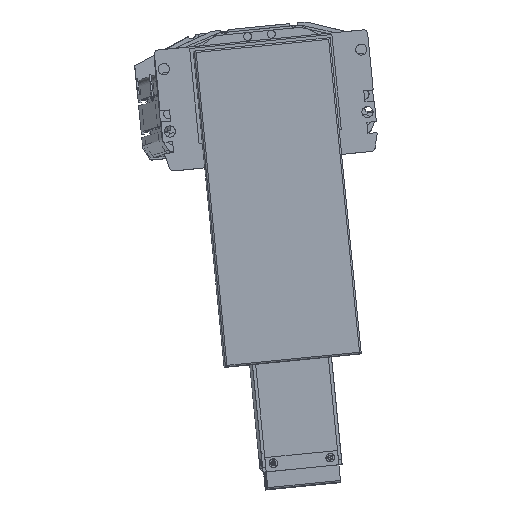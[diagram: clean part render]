
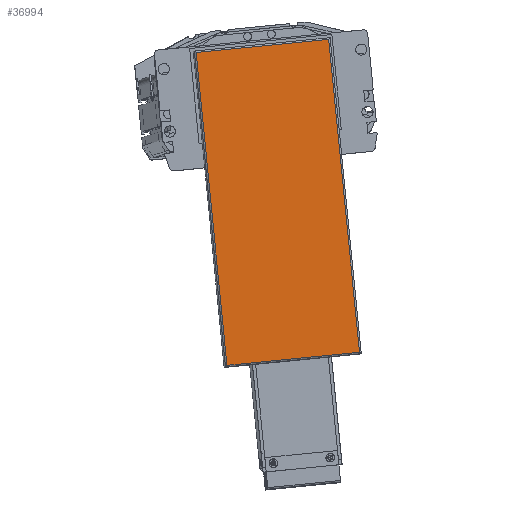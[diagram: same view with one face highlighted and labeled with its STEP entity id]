
A CAD part, top view. The second image highlights one B-rep face of the part: STEP entity #36994.
In plain terms, the highlighted planar face has unit normal (0.017, 0.003, 1) as drawn and (0, 0, 1) by its records, which use the part's own axes.
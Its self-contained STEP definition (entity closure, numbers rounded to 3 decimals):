
#36651 = EDGE_CURVE ( 'NONE', #36836, #36724, #46009, .T. ) ;
#36658 = EDGE_CURVE ( 'NONE', #36724, #36799, #45969, .T. ) ;
#36714 = EDGE_CURVE ( 'NONE', #36804, #36836, #46100, .T. ) ;
#36724 = VERTEX_POINT ( 'NONE', #46101 ) ;
#36780 = EDGE_CURVE ( 'NONE', #36799, #36804, #46171, .T. ) ;
#36799 = VERTEX_POINT ( 'NONE', #46248 ) ;
#36804 = VERTEX_POINT ( 'NONE', #46246 ) ;
#36836 = VERTEX_POINT ( 'NONE', #46336 ) ;
#36848 = ORIENTED_EDGE ( 'NONE', *, *, #36651, .T. ) ;
#36862 = ORIENTED_EDGE ( 'NONE', *, *, #36780, .T. ) ;
#36975 = ORIENTED_EDGE ( 'NONE', *, *, #36714, .T. ) ;
#36980 = ORIENTED_EDGE ( 'NONE', *, *, #36658, .T. ) ;
#36992 = EDGE_LOOP ( 'NONE', ( #36848, #36980, #36862, #36975 ) ) ;
#36994 = ADVANCED_FACE ( 'NONE', ( #46504 ), #46509, .T. ) ;
#45956 = DIRECTION ( 'NONE',  ( 0., 1., 0. ) ) ;
#45958 = VECTOR ( 'NONE', #45956, 1000. ) ;
#45968 = CARTESIAN_POINT ( 'NONE',  ( 41.95, -126.25, 44. ) ) ;
#45969 = LINE ( 'NONE', #45968, #45958 ) ;
#45979 = DIRECTION ( 'NONE',  ( 1., 0., 0. ) ) ;
#45980 = VECTOR ( 'NONE', #45979, 1000. ) ;
#45982 = CARTESIAN_POINT ( 'NONE',  ( -42.95, -125.25, 44. ) ) ;
#46009 = LINE ( 'NONE', #45982, #45980 ) ;
#46099 = CARTESIAN_POINT ( 'NONE',  ( -41.95, -126.25, 44. ) ) ;
#46100 = LINE ( 'NONE', #46099, #46238 ) ;
#46101 = CARTESIAN_POINT ( 'NONE',  ( 41.95, -125.25, 44. ) ) ;
#46171 = LINE ( 'NONE', #46204, #46297 ) ;
#46204 = CARTESIAN_POINT ( 'NONE',  ( -42.95, 72.75, 44. ) ) ;
#46236 = DIRECTION ( 'NONE',  ( 0., -1., 0. ) ) ;
#46238 = VECTOR ( 'NONE', #46236, 1000. ) ;
#46246 = CARTESIAN_POINT ( 'NONE',  ( -41.95, 72.75, 44. ) ) ;
#46248 = CARTESIAN_POINT ( 'NONE',  ( 41.95, 72.75, 44. ) ) ;
#46296 = DIRECTION ( 'NONE',  ( -1., 0., 0. ) ) ;
#46297 = VECTOR ( 'NONE', #46296, 1000. ) ;
#46336 = CARTESIAN_POINT ( 'NONE',  ( -41.95, -125.25, 44. ) ) ;
#46504 = FACE_OUTER_BOUND ( 'NONE', #36992, .T. ) ;
#46509 = PLANE ( 'NONE',  #46566 ) ;
#46539 = CARTESIAN_POINT ( 'NONE',  ( -42.95, -126.25, 44. ) ) ;
#46566 = AXIS2_PLACEMENT_3D ( 'NONE', #46539, #46634, #46632 ) ;
#46632 = DIRECTION ( 'NONE',  ( 1., 0., 0. ) ) ;
#46634 = DIRECTION ( 'NONE',  ( 0., 0., 1. ) ) ;
